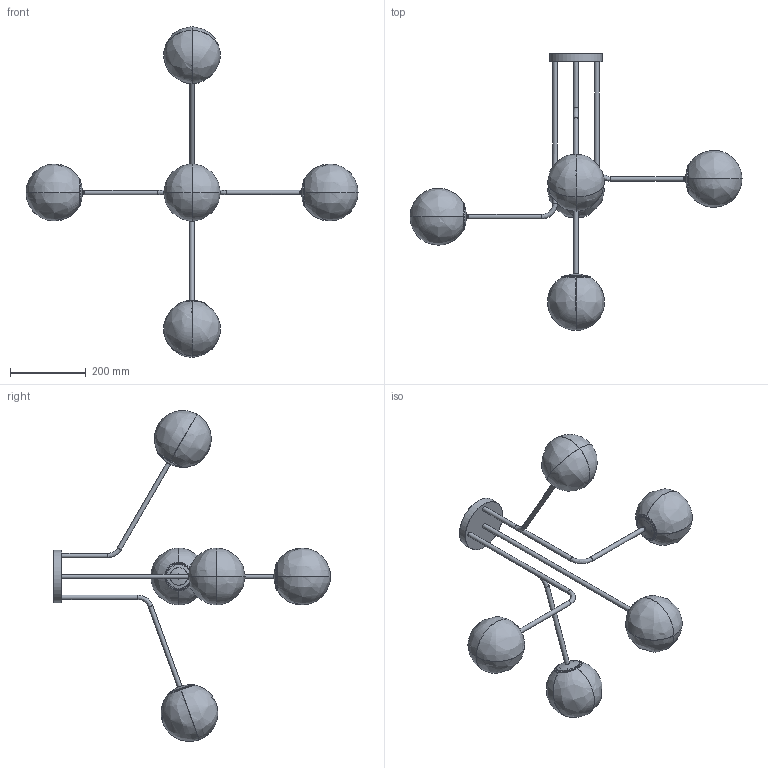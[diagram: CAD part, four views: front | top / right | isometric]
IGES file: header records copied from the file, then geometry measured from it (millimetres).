
Global section: file name: PARMA-C3946280-3D; native system: AutoCAD 2022 - Español (Spanish),; preprocessor: Autodesk Translation Framework DWG producer (atf_dwg_producer); organization: unknown; date: 20221221.104218; units: millimetre
Bounding box: 877.25 x 731.62 x 874.21 mm (x, y, z)
Volume: 8077562.5 mm3; surface area: 874013.2 mm2
Topology: 36 solids, 36 shells, 593 faces, 1395 edges, 850 vertices
Faces by surface type: bspline 593
